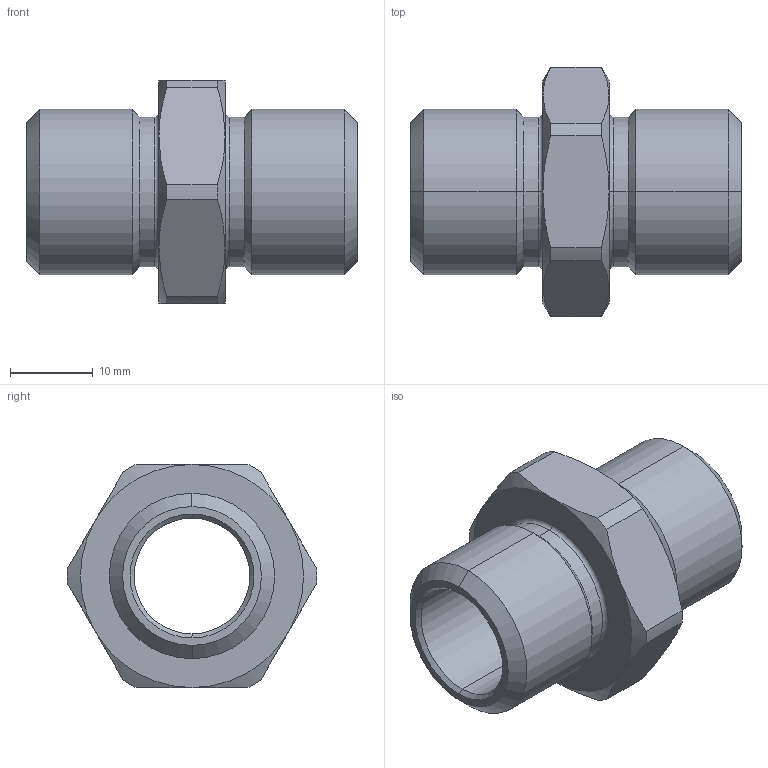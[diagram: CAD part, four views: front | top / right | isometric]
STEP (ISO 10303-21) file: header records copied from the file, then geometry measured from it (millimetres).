
FILE_DESCRIPTION (( 'STEP AP203' ), '1' );
FILE_NAME ('ﾍﾂﾍ1Mﾍ.STEP', '2019-06-05T11:17:48', ( '' ), ( '' ), 'SwSTEP 2.0', 'SolidWorks 2012', '' );
FILE_SCHEMA (( 'CONFIG_CONTROL_DESIGN' ));
Length unit declared in the file: millimetre
Products named in the file (1): ﾍﾂﾍ1Mﾍ
Bounding box: 40 x 30.19 x 27 mm (x, y, z)
Volume: 8122.2 mm3; surface area: 5538.8 mm2
Topology: 1 solids, 1 shells, 60 faces, 130 edges, 76 vertices
Faces by surface type: cone 24, cylinder 20, plane 12, torus 4
Entity records: 1811 total; most frequent: CARTESIAN_POINT 419, DIRECTION 296, ORIENTED_EDGE 260, EDGE_CURVE 130, AXIS2_PLACEMENT_3D 129, VERTEX_POINT 76, CIRCLE 68, EDGE_LOOP 66
